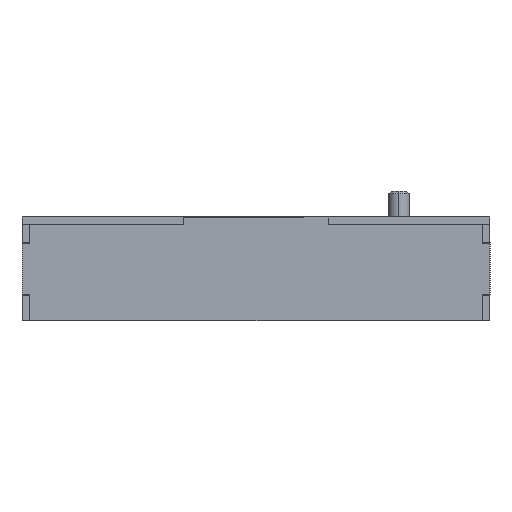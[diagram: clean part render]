
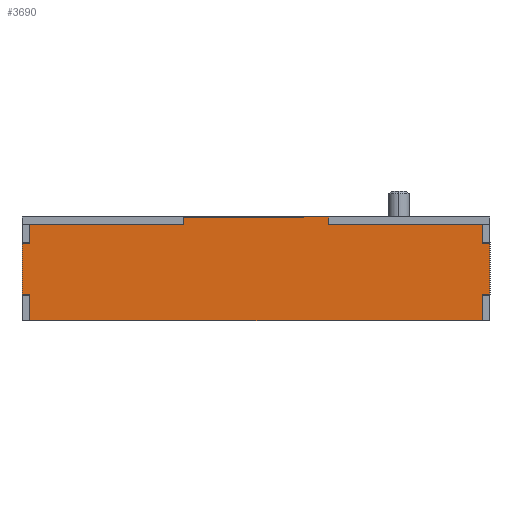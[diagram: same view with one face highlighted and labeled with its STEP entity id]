
A CAD part, left-side view. The second image highlights one B-rep face of the part: STEP entity #3690.
In plain terms, the highlighted planar face has unit normal (-1, 0, 0).
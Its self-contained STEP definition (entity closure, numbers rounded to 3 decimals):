
#33 = VERTEX_POINT ( 'NONE', #2600 ) ;
#42 = EDGE_CURVE ( 'NONE', #3564, #324, #1108, .T. ) ;
#43 = DIRECTION ( 'NONE',  ( 0., -1., 0. ) ) ;
#76 = VERTEX_POINT ( 'NONE', #3020 ) ;
#162 = CARTESIAN_POINT ( 'NONE',  ( 0., 10., 87. ) ) ;
#176 = DIRECTION ( 'NONE',  ( 0., 0., -1. ) ) ;
#177 = ORIENTED_EDGE ( 'NONE', *, *, #42, .F. ) ;
#183 = DIRECTION ( 'NONE',  ( 0., 1., 0. ) ) ;
#248 = LINE ( 'NONE', #1609, #3401 ) ;
#269 = ORIENTED_EDGE ( 'NONE', *, *, #2440, .F. ) ;
#292 = ORIENTED_EDGE ( 'NONE', *, *, #1415, .T. ) ;
#324 = VERTEX_POINT ( 'NONE', #2941 ) ;
#366 = EDGE_CURVE ( 'NONE', #2021, #3143, #3390, .T. ) ;
#404 = VECTOR ( 'NONE', #1195, 1000. ) ;
#411 = EDGE_CURVE ( 'NONE', #988, #822, #1149, .T. ) ;
#435 = VERTEX_POINT ( 'NONE', #3459 ) ;
#563 = LINE ( 'NONE', #3820, #849 ) ;
#611 = DIRECTION ( 'NONE',  ( 0., 1., 0. ) ) ;
#675 = LINE ( 'NONE', #3153, #1469 ) ;
#699 = VECTOR ( 'NONE', #611, 1000. ) ;
#734 = ORIENTED_EDGE ( 'NONE', *, *, #3830, .T. ) ;
#749 = VECTOR ( 'NONE', #1644, 1000. ) ;
#771 = LINE ( 'NONE', #2617, #2637 ) ;
#822 = VERTEX_POINT ( 'NONE', #4091 ) ;
#849 = VECTOR ( 'NONE', #183, 1000. ) ;
#871 = CARTESIAN_POINT ( 'NONE',  ( 0., 17., 87. ) ) ;
#880 = DIRECTION ( 'NONE',  ( 0., 0., 1. ) ) ;
#910 = CARTESIAN_POINT ( 'NONE',  ( 0., 17., -87. ) ) ;
#914 = CARTESIAN_POINT ( 'NONE',  ( 0., 0., 0. ) ) ;
#988 = VERTEX_POINT ( 'NONE', #1637 ) ;
#1001 = EDGE_CURVE ( 'NONE', #3564, #435, #1615, .T. ) ;
#1048 = VECTOR ( 'NONE', #1221, 1000. ) ;
#1108 = LINE ( 'NONE', #2574, #2425 ) ;
#1120 = EDGE_CURVE ( 'NONE', #1747, #76, #2532, .T. ) ;
#1121 = VECTOR ( 'NONE', #1660, 1000. ) ;
#1128 = ORIENTED_EDGE ( 'NONE', *, *, #366, .F. ) ;
#1149 = LINE ( 'NONE', #910, #3485 ) ;
#1175 = CARTESIAN_POINT ( 'NONE',  ( 0., -20., 87. ) ) ;
#1180 = CARTESIAN_POINT ( 'NONE',  ( 0., 10., 90. ) ) ;
#1195 = DIRECTION ( 'NONE',  ( 0., -1., 0. ) ) ;
#1213 = EDGE_CURVE ( 'NONE', #1791, #988, #3568, .T. ) ;
#1221 = DIRECTION ( 'NONE',  ( 0., -1., 0. ) ) ;
#1254 = VERTEX_POINT ( 'NONE', #3306 ) ;
#1262 = CARTESIAN_POINT ( 'NONE',  ( 0., -20., 87. ) ) ;
#1271 = FACE_OUTER_BOUND ( 'NONE', #4153, .T. ) ;
#1322 = AXIS2_PLACEMENT_3D ( 'NONE', #914, #3344, #176 ) ;
#1347 = ORIENTED_EDGE ( 'NONE', *, *, #3794, .F. ) ;
#1390 = VERTEX_POINT ( 'NONE', #3735 ) ;
#1415 = EDGE_CURVE ( 'NONE', #1254, #324, #248, .T. ) ;
#1447 = VERTEX_POINT ( 'NONE', #162 ) ;
#1451 = ORIENTED_EDGE ( 'NONE', *, *, #4656, .T. ) ;
#1469 = VECTOR ( 'NONE', #3128, 1000. ) ;
#1544 = LINE ( 'NONE', #4413, #404 ) ;
#1600 = DIRECTION ( 'NONE',  ( 0., 0., 1. ) ) ;
#1609 = CARTESIAN_POINT ( 'NONE',  ( 0., -20., -87. ) ) ;
#1615 = LINE ( 'NONE', #1262, #1121 ) ;
#1637 = CARTESIAN_POINT ( 'NONE',  ( 0., 17., -28. ) ) ;
#1644 = DIRECTION ( 'NONE',  ( 0., 0., 1. ) ) ;
#1645 = ORIENTED_EDGE ( 'NONE', *, *, #411, .T. ) ;
#1660 = DIRECTION ( 'NONE',  ( 0., 1., 0. ) ) ;
#1676 = CARTESIAN_POINT ( 'NONE',  ( 0., 17., 87. ) ) ;
#1747 = VERTEX_POINT ( 'NONE', #3229 ) ;
#1777 = DIRECTION ( 'NONE',  ( 0., 0., -1. ) ) ;
#1791 = VERTEX_POINT ( 'NONE', #3915 ) ;
#1937 = VECTOR ( 'NONE', #880, 1000. ) ;
#2014 = LINE ( 'NONE', #871, #4245 ) ;
#2021 = VERTEX_POINT ( 'NONE', #1180 ) ;
#2102 = ORIENTED_EDGE ( 'NONE', *, *, #2853, .T. ) ;
#2128 = CARTESIAN_POINT ( 'NONE',  ( 0., 17., 87. ) ) ;
#2168 = EDGE_CURVE ( 'NONE', #2309, #2913, #2014, .T. ) ;
#2184 = CARTESIAN_POINT ( 'NONE',  ( 0., 20., -28. ) ) ;
#2298 = VECTOR ( 'NONE', #1600, 1000. ) ;
#2309 = VERTEX_POINT ( 'NONE', #2128 ) ;
#2394 = ORIENTED_EDGE ( 'NONE', *, *, #4248, .T. ) ;
#2425 = VECTOR ( 'NONE', #1777, 1000. ) ;
#2440 = EDGE_CURVE ( 'NONE', #1390, #76, #771, .T. ) ;
#2532 = LINE ( 'NONE', #3968, #3382 ) ;
#2574 = CARTESIAN_POINT ( 'NONE',  ( 0., -20., 90. ) ) ;
#2600 = CARTESIAN_POINT ( 'NONE',  ( 0., 20., 28. ) ) ;
#2617 = CARTESIAN_POINT ( 'NONE',  ( 0., 20., -90. ) ) ;
#2637 = VECTOR ( 'NONE', #4390, 1000. ) ;
#2658 = EDGE_CURVE ( 'NONE', #1390, #1254, #2715, .T. ) ;
#2678 = LINE ( 'NONE', #2750, #1937 ) ;
#2715 = LINE ( 'NONE', #4119, #749 ) ;
#2750 = CARTESIAN_POINT ( 'NONE',  ( 0., -10., 90. ) ) ;
#2779 = ORIENTED_EDGE ( 'NONE', *, *, #1001, .T. ) ;
#2853 = EDGE_CURVE ( 'NONE', #435, #3143, #2678, .T. ) ;
#2913 = VERTEX_POINT ( 'NONE', #4221 ) ;
#2941 = CARTESIAN_POINT ( 'NONE',  ( 0., -20., -87. ) ) ;
#3020 = CARTESIAN_POINT ( 'NONE',  ( 0., 10., -90. ) ) ;
#3128 = DIRECTION ( 'NONE',  ( 0., 0., -1. ) ) ;
#3143 = VERTEX_POINT ( 'NONE', #4009 ) ;
#3153 = CARTESIAN_POINT ( 'NONE',  ( 0., 10., 90. ) ) ;
#3229 = CARTESIAN_POINT ( 'NONE',  ( 0., 10., -87. ) ) ;
#3306 = CARTESIAN_POINT ( 'NONE',  ( 0., -10., -87. ) ) ;
#3344 = DIRECTION ( 'NONE',  ( 1., 0., 0. ) ) ;
#3367 = CARTESIAN_POINT ( 'NONE',  ( 0., 20., 90. ) ) ;
#3378 = DIRECTION ( 'NONE',  ( 0., -1., 0. ) ) ;
#3382 = VECTOR ( 'NONE', #3615, 1000. ) ;
#3390 = LINE ( 'NONE', #4440, #1048 ) ;
#3401 = VECTOR ( 'NONE', #3378, 1000. ) ;
#3447 = ORIENTED_EDGE ( 'NONE', *, *, #1213, .T. ) ;
#3459 = CARTESIAN_POINT ( 'NONE',  ( 0., -10., 87. ) ) ;
#3485 = VECTOR ( 'NONE', #3855, 1000. ) ;
#3564 = VERTEX_POINT ( 'NONE', #1175 ) ;
#3568 = LINE ( 'NONE', #2184, #3608 ) ;
#3608 = VECTOR ( 'NONE', #43, 1000. ) ;
#3615 = DIRECTION ( 'NONE',  ( 0., 0., -1. ) ) ;
#3651 = ORIENTED_EDGE ( 'NONE', *, *, #4625, .T. ) ;
#3690 = ADVANCED_FACE ( 'NONE', ( #1271 ), #4144, .F. ) ;
#3720 = ORIENTED_EDGE ( 'NONE', *, *, #2658, .T. ) ;
#3735 = CARTESIAN_POINT ( 'NONE',  ( 0., -10., -90. ) ) ;
#3794 = EDGE_CURVE ( 'NONE', #1791, #33, #4463, .T. ) ;
#3820 = CARTESIAN_POINT ( 'NONE',  ( 0., 20., 28. ) ) ;
#3830 = EDGE_CURVE ( 'NONE', #2021, #1447, #675, .T. ) ;
#3855 = DIRECTION ( 'NONE',  ( 0., 0., -1. ) ) ;
#3915 = CARTESIAN_POINT ( 'NONE',  ( 0., 20., -28. ) ) ;
#3968 = CARTESIAN_POINT ( 'NONE',  ( 0., 10., -90. ) ) ;
#4009 = CARTESIAN_POINT ( 'NONE',  ( 0., -10., 90. ) ) ;
#4091 = CARTESIAN_POINT ( 'NONE',  ( 0., 17., -87. ) ) ;
#4119 = CARTESIAN_POINT ( 'NONE',  ( 0., -10., -90. ) ) ;
#4144 = PLANE ( 'NONE',  #1322 ) ;
#4153 = EDGE_LOOP ( 'NONE', ( #4438, #1451, #1347, #3447, #1645, #2394, #4489, #269, #3720, #292, #177, #2779, #2102, #1128, #734, #3651 ) ) ;
#4172 = DIRECTION ( 'NONE',  ( 0., 0., -1. ) ) ;
#4221 = CARTESIAN_POINT ( 'NONE',  ( 0., 17., 28. ) ) ;
#4245 = VECTOR ( 'NONE', #4172, 1000. ) ;
#4248 = EDGE_CURVE ( 'NONE', #822, #1747, #1544, .T. ) ;
#4390 = DIRECTION ( 'NONE',  ( 0., 1., 0. ) ) ;
#4413 = CARTESIAN_POINT ( 'NONE',  ( 0., 17., -87. ) ) ;
#4438 = ORIENTED_EDGE ( 'NONE', *, *, #2168, .T. ) ;
#4440 = CARTESIAN_POINT ( 'NONE',  ( 0., 20., 90. ) ) ;
#4463 = LINE ( 'NONE', #3367, #2298 ) ;
#4469 = LINE ( 'NONE', #1676, #699 ) ;
#4489 = ORIENTED_EDGE ( 'NONE', *, *, #1120, .T. ) ;
#4625 = EDGE_CURVE ( 'NONE', #1447, #2309, #4469, .T. ) ;
#4656 = EDGE_CURVE ( 'NONE', #2913, #33, #563, .T. ) ;
